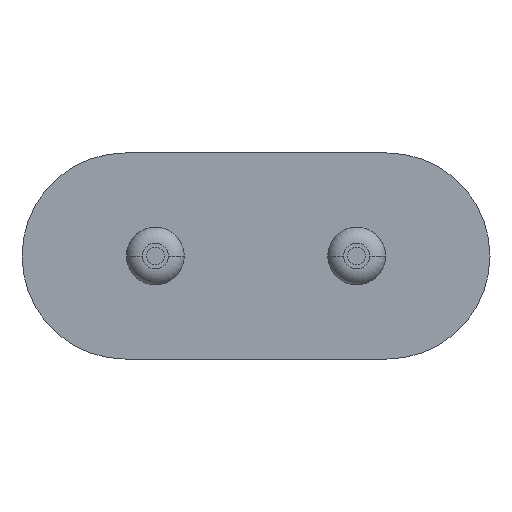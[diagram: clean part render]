
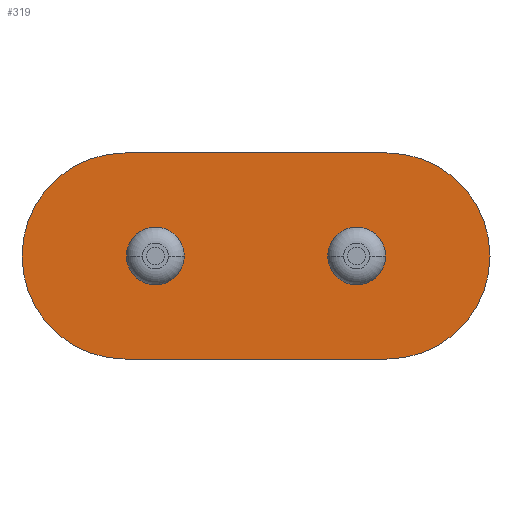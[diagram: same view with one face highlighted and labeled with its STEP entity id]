
A CAD part, front view. The second image highlights one B-rep face of the part: STEP entity #319.
In plain terms, the highlighted planar face has unit normal (0, -1, 0).
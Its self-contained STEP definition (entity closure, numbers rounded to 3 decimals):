
#50 = FACE_BOUND ( 'NONE', #363, .T. ) ;
#53 = FACE_OUTER_BOUND ( 'NONE', #356, .T. ) ;
#54 = FACE_BOUND ( 'NONE', #361, .T. ) ;
#56 = CIRCLE ( 'NONE', #162, 2.5 ) ;
#90 = EDGE_CURVE ( 'NONE', #396, #541, #445, .T. ) ;
#93 = EDGE_CURVE ( 'NONE', #421, #408, #517, .T. ) ;
#113 = EDGE_CURVE ( 'NONE', #380, #419, #485, .T. ) ;
#117 = AXIS2_PLACEMENT_3D ( 'NONE', #298, #297, #295 ) ;
#130 = AXIS2_PLACEMENT_3D ( 'NONE', #245, #244, #242 ) ;
#135 = AXIS2_PLACEMENT_3D ( 'NONE', #774, #771, #769 ) ;
#137 = AXIS2_PLACEMENT_3D ( 'NONE', #795, #869, #794 ) ;
#140 = AXIS2_PLACEMENT_3D ( 'NONE', #634, #863, #858 ) ;
#162 = AXIS2_PLACEMENT_3D ( 'NONE', #701, #699, #698 ) ;
#185 = AXIS2_PLACEMENT_3D ( 'NONE', #626, #625, #633 ) ;
#187 = EDGE_CURVE ( 'NONE', #408, #421, #461, .T. ) ;
#194 = EDGE_CURVE ( 'NONE', #376, #547, #402, .T. ) ;
#196 = EDGE_CURVE ( 'NONE', #419, #380, #398, .T. ) ;
#198 = EDGE_CURVE ( 'NONE', #547, #396, #378, .T. ) ;
#212 = EDGE_CURVE ( 'NONE', #541, #376, #56, .T. ) ;
#242 = DIRECTION ( 'NONE',  ( 0., 0., -1. ) ) ;
#243 = DIRECTION ( 'NONE',  ( -1., 0., 0. ) ) ;
#244 = DIRECTION ( 'NONE',  ( 0., -1., 0. ) ) ;
#245 = CARTESIAN_POINT ( 'NONE',  ( 4.88, 0.3, 0. ) ) ;
#246 = CARTESIAN_POINT ( 'NONE',  ( -0.735, 0.3, -2.5 ) ) ;
#295 = DIRECTION ( 'NONE',  ( 0., 0., -1. ) ) ;
#297 = DIRECTION ( 'NONE',  ( 0., 1., 0. ) ) ;
#298 = CARTESIAN_POINT ( 'NONE',  ( 0., 0.3, 0. ) ) ;
#319 = ADVANCED_FACE ( 'NONE', ( #54, #50, #53 ), #624, .T. ) ;
#356 = EDGE_LOOP ( 'NONE', ( #580, #529, #365, #565 ) ) ;
#361 = EDGE_LOOP ( 'NONE', ( #579, #560 ) ) ;
#363 = EDGE_LOOP ( 'NONE', ( #582, #573 ) ) ;
#365 = ORIENTED_EDGE ( 'NONE', *, *, #198, .F. ) ;
#376 = VERTEX_POINT ( 'NONE', #814 ) ;
#378 = CIRCLE ( 'NONE', #135, 2.5 ) ;
#380 = VERTEX_POINT ( 'NONE', #820 ) ;
#396 = VERTEX_POINT ( 'NONE', #802 ) ;
#398 = CIRCLE ( 'NONE', #137, 0.7 ) ;
#400 = VECTOR ( 'NONE', #822, 1000. ) ;
#402 = LINE ( 'NONE', #821, #400 ) ;
#408 = VERTEX_POINT ( 'NONE', #792 ) ;
#419 = VERTEX_POINT ( 'NONE', #785 ) ;
#421 = VERTEX_POINT ( 'NONE', #784 ) ;
#445 = LINE ( 'NONE', #246, #514 ) ;
#461 = CIRCLE ( 'NONE', #140, 0.7 ) ;
#485 = CIRCLE ( 'NONE', #130, 0.7 ) ;
#514 = VECTOR ( 'NONE', #243, 1000. ) ;
#517 = CIRCLE ( 'NONE', #117, 0.7 ) ;
#529 = ORIENTED_EDGE ( 'NONE', *, *, #90, .F. ) ;
#541 = VERTEX_POINT ( 'NONE', #765 ) ;
#547 = VERTEX_POINT ( 'NONE', #762 ) ;
#560 = ORIENTED_EDGE ( 'NONE', *, *, #113, .F. ) ;
#565 = ORIENTED_EDGE ( 'NONE', *, *, #194, .F. ) ;
#573 = ORIENTED_EDGE ( 'NONE', *, *, #187, .T. ) ;
#579 = ORIENTED_EDGE ( 'NONE', *, *, #196, .F. ) ;
#580 = ORIENTED_EDGE ( 'NONE', *, *, #212, .F. ) ;
#582 = ORIENTED_EDGE ( 'NONE', *, *, #93, .T. ) ;
#624 = PLANE ( 'NONE',  #185 ) ;
#625 = DIRECTION ( 'NONE',  ( 0., -1., 0. ) ) ;
#626 = CARTESIAN_POINT ( 'NONE',  ( -0.735, 0.3, 0. ) ) ;
#633 = DIRECTION ( 'NONE',  ( 0., 0., -1. ) ) ;
#634 = CARTESIAN_POINT ( 'NONE',  ( 0., 0.3, 0. ) ) ;
#698 = DIRECTION ( 'NONE',  ( 0., 0., -1. ) ) ;
#699 = DIRECTION ( 'NONE',  ( 0., 1., 0. ) ) ;
#701 = CARTESIAN_POINT ( 'NONE',  ( -0.735, 0.3, 0. ) ) ;
#762 = CARTESIAN_POINT ( 'NONE',  ( 5.615, 0.3, 2.5 ) ) ;
#765 = CARTESIAN_POINT ( 'NONE',  ( -0.735, 0.3, -2.5 ) ) ;
#769 = DIRECTION ( 'NONE',  ( 0., 0., 1. ) ) ;
#771 = DIRECTION ( 'NONE',  ( 0., 1., 0. ) ) ;
#774 = CARTESIAN_POINT ( 'NONE',  ( 5.615, 0.3, 0. ) ) ;
#784 = CARTESIAN_POINT ( 'NONE',  ( 0.7, 0.3, 0. ) ) ;
#785 = CARTESIAN_POINT ( 'NONE',  ( 4.18, 0.3, 0. ) ) ;
#792 = CARTESIAN_POINT ( 'NONE',  ( -0.7, 0.3, 0. ) ) ;
#794 = DIRECTION ( 'NONE',  ( 0., 0., -1. ) ) ;
#795 = CARTESIAN_POINT ( 'NONE',  ( 4.88, 0.3, 0. ) ) ;
#802 = CARTESIAN_POINT ( 'NONE',  ( 5.615, 0.3, -2.5 ) ) ;
#814 = CARTESIAN_POINT ( 'NONE',  ( -0.735, 0.3, 2.5 ) ) ;
#820 = CARTESIAN_POINT ( 'NONE',  ( 5.58, 0.3, 0. ) ) ;
#821 = CARTESIAN_POINT ( 'NONE',  ( -0.735, 0.3, 2.5 ) ) ;
#822 = DIRECTION ( 'NONE',  ( 1., 0., 0. ) ) ;
#858 = DIRECTION ( 'NONE',  ( 0., 0., -1. ) ) ;
#863 = DIRECTION ( 'NONE',  ( 0., 1., 0. ) ) ;
#869 = DIRECTION ( 'NONE',  ( 0., -1., 0. ) ) ;
